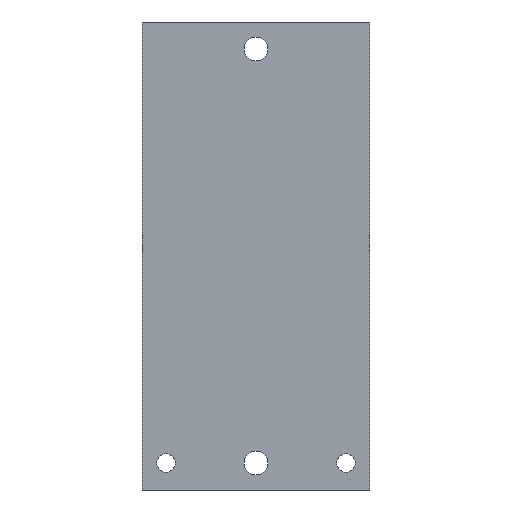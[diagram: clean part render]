
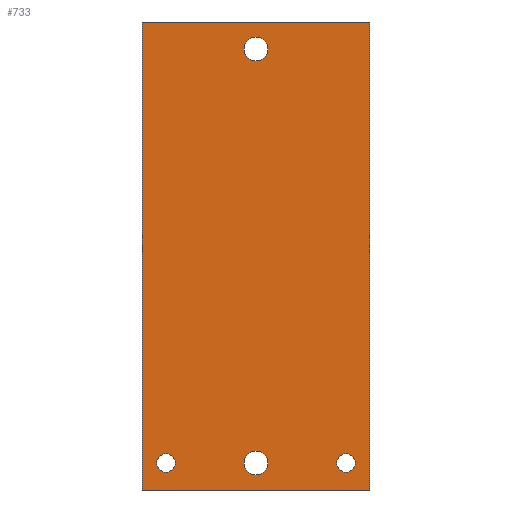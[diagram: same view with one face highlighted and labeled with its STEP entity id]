
A CAD part, front view. The second image highlights one B-rep face of the part: STEP entity #733.
In plain terms, the highlighted planar face has unit normal (0, -1, 0).
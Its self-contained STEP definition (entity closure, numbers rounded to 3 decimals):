
#13=DIRECTION('',(0.,0.,1.));
#14=VECTOR('',#13,130.);
#15=CARTESIAN_POINT('',(31.65,0.,-65.));
#16=LINE('',#15,#14);
#17=DIRECTION('',(-1.,0.,0.));
#18=VECTOR('',#17,63.3);
#19=CARTESIAN_POINT('',(31.65,0.,65.));
#20=LINE('',#19,#18);
#21=DIRECTION('',(-1.,0.,0.));
#22=VECTOR('',#21,63.3);
#23=CARTESIAN_POINT('',(31.65,0.,-65.));
#24=LINE('',#23,#22);
#25=CARTESIAN_POINT('',(0.,0.,-57.5));
#26=DIRECTION('',(0.,1.,0.));
#27=DIRECTION('',(1.,0.,0.));
#28=AXIS2_PLACEMENT_3D('',#25,#26,#27);
#30=CARTESIAN_POINT('',(0.,0.,-57.5));
#31=DIRECTION('',(0.,1.,0.));
#32=DIRECTION('',(-1.,0.,0.));
#33=AXIS2_PLACEMENT_3D('',#30,#31,#32);
#35=CARTESIAN_POINT('',(0.,0.,57.5));
#36=DIRECTION('',(0.,1.,0.));
#37=DIRECTION('',(1.,0.,0.));
#38=AXIS2_PLACEMENT_3D('',#35,#36,#37);
#40=CARTESIAN_POINT('',(0.,0.,57.5));
#41=DIRECTION('',(0.,1.,0.));
#42=DIRECTION('',(-1.,0.,0.));
#43=AXIS2_PLACEMENT_3D('',#40,#41,#42);
#45=CARTESIAN_POINT('',(-25.,0.,-57.5));
#46=DIRECTION('',(0.,-1.,0.));
#47=DIRECTION('',(1.,0.,0.));
#48=AXIS2_PLACEMENT_3D('',#45,#46,#47);
#50=CARTESIAN_POINT('',(-25.,0.,-57.5));
#51=DIRECTION('',(0.,-1.,0.));
#52=DIRECTION('',(-1.,0.,0.));
#53=AXIS2_PLACEMENT_3D('',#50,#51,#52);
#55=CARTESIAN_POINT('',(25.,0.,-57.5));
#56=DIRECTION('',(0.,-1.,0.));
#57=DIRECTION('',(1.,0.,0.));
#58=AXIS2_PLACEMENT_3D('',#55,#56,#57);
#60=CARTESIAN_POINT('',(25.,0.,-57.5));
#61=DIRECTION('',(0.,-1.,0.));
#62=DIRECTION('',(-1.,0.,0.));
#63=AXIS2_PLACEMENT_3D('',#60,#61,#62);
#213=DIRECTION('',(0.,0.,1.));
#214=VECTOR('',#213,130.);
#215=CARTESIAN_POINT('',(-31.65,0.,-65.));
#216=LINE('',#215,#214);
#505=CARTESIAN_POINT('',(31.65,0.,65.));
#507=VERTEX_POINT('',#505);
#511=CARTESIAN_POINT('',(31.65,0.,-65.));
#512=VERTEX_POINT('',#511);
#513=CARTESIAN_POINT('',(-31.65,0.,65.));
#515=VERTEX_POINT('',#513);
#519=CARTESIAN_POINT('',(-31.65,0.,-65.));
#520=VERTEX_POINT('',#519);
#589=CARTESIAN_POINT('',(-22.445,0.,-57.5));
#590=CARTESIAN_POINT('',(-27.555,0.,-57.5));
#591=VERTEX_POINT('',#589);
#592=VERTEX_POINT('',#590);
#597=CARTESIAN_POINT('',(27.555,0.,-57.5));
#598=CARTESIAN_POINT('',(22.445,0.,-57.5));
#599=VERTEX_POINT('',#597);
#600=VERTEX_POINT('',#598);
#613=CARTESIAN_POINT('',(3.3,0.,-57.5));
#614=CARTESIAN_POINT('',(-3.3,0.,-57.5));
#615=VERTEX_POINT('',#613);
#616=VERTEX_POINT('',#614);
#629=CARTESIAN_POINT('',(3.3,0.,57.5));
#630=CARTESIAN_POINT('',(-3.3,0.,57.5));
#631=VERTEX_POINT('',#629);
#632=VERTEX_POINT('',#630);
#696=CARTESIAN_POINT('',(31.65,0.,-65.));
#697=DIRECTION('',(0.,-1.,0.));
#698=DIRECTION('',(0.,0.,1.));
#699=AXIS2_PLACEMENT_3D('',#696,#697,#698);
#700=PLANE('',#699);
#701=ORIENTED_EDGE('',*,*,#676,.F.);
#703=ORIENTED_EDGE('',*,*,#702,.T.);
#705=ORIENTED_EDGE('',*,*,#704,.T.);
#706=ORIENTED_EDGE('',*,*,#687,.F.);
#707=EDGE_LOOP('',(#701,#703,#705,#706));
#708=FACE_OUTER_BOUND('',#707,.F.);
#710=ORIENTED_EDGE('',*,*,#709,.F.);
#712=ORIENTED_EDGE('',*,*,#711,.F.);
#713=EDGE_LOOP('',(#710,#712));
#714=FACE_BOUND('',#713,.F.);
#716=ORIENTED_EDGE('',*,*,#715,.F.);
#718=ORIENTED_EDGE('',*,*,#717,.F.);
#719=EDGE_LOOP('',(#716,#718));
#720=FACE_BOUND('',#719,.F.);
#722=ORIENTED_EDGE('',*,*,#721,.T.);
#724=ORIENTED_EDGE('',*,*,#723,.T.);
#725=EDGE_LOOP('',(#722,#724));
#726=FACE_BOUND('',#725,.F.);
#728=ORIENTED_EDGE('',*,*,#727,.T.);
#730=ORIENTED_EDGE('',*,*,#729,.T.);
#731=EDGE_LOOP('',(#728,#730));
#732=FACE_BOUND('',#731,.F.);
#733=ADVANCED_FACE('',(#708,#714,#720,#726,#732),#700,.T.);
#29=CIRCLE('',#28,3.3);
#34=CIRCLE('',#33,3.3);
#39=CIRCLE('',#38,3.3);
#44=CIRCLE('',#43,3.3);
#49=CIRCLE('',#48,2.555);
#54=CIRCLE('',#53,2.555);
#59=CIRCLE('',#58,2.555);
#64=CIRCLE('',#63,2.555);
#676=EDGE_CURVE('',#512,#507,#16,.T.);
#687=EDGE_CURVE('',#507,#515,#20,.T.);
#702=EDGE_CURVE('',#512,#520,#24,.T.);
#704=EDGE_CURVE('',#520,#515,#216,.T.);
#709=EDGE_CURVE('',#615,#616,#29,.T.);
#711=EDGE_CURVE('',#616,#615,#34,.T.);
#715=EDGE_CURVE('',#631,#632,#39,.T.);
#717=EDGE_CURVE('',#632,#631,#44,.T.);
#721=EDGE_CURVE('',#591,#592,#49,.T.);
#723=EDGE_CURVE('',#592,#591,#54,.T.);
#727=EDGE_CURVE('',#599,#600,#59,.T.);
#729=EDGE_CURVE('',#600,#599,#64,.T.);
